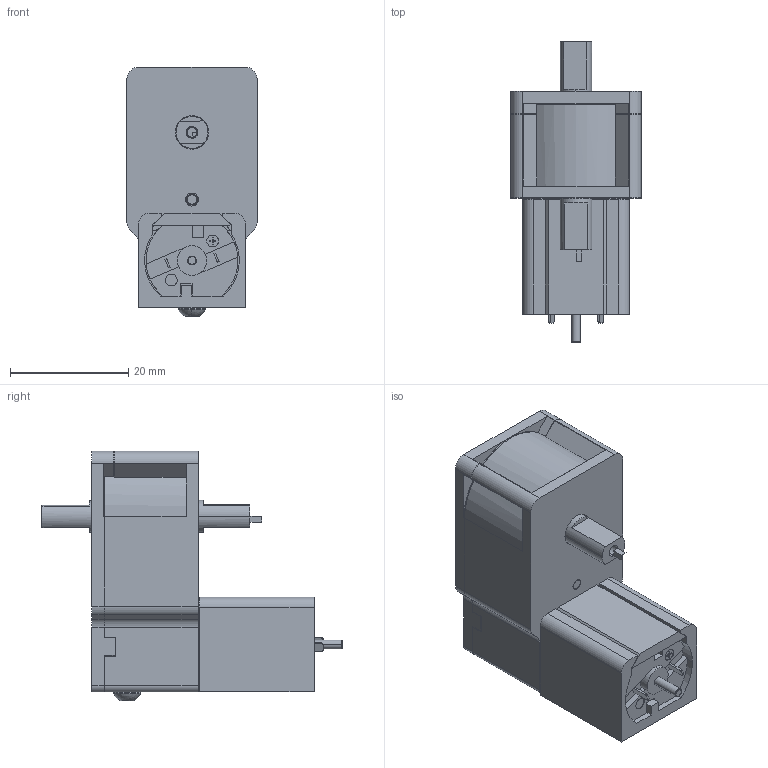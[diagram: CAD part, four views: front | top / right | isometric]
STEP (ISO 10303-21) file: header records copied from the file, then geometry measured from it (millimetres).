
FILE_DESCRIPTION((''),'2;1');
FILE_NAME('00-0300001_ASM_23_ASM_STP_ASM','2024-10-08T10:42:39',('qinghui.yi'),(''),'CREO PARAMETRIC BY PTC INC, 2019164','CREO PARAMETRIC BY PTC INC, 2019164','');
FILE_SCHEMA(('CONFIG_CONTROL_DESIGN','SHAPE_APPEARANCE_LAYERS_GROUPS'));
Products named in the file (19): 00-0001_ASM_15_ASM; 00-0001_ASM_ASM; 01-03000_25_STP; 01-030B0001_8_STP; Y_JG_WJ_B00043_M2_0001_1_STP; 01-0023_2_STP; 01-030A0001_13_STP; 01-A000_5_STP; 01-2-18MM0_4_STP; 01-B000_12_STP; 000; PRT0003; PRT0005; PRT0006; PRT0004; PRT0008; PRT0012; 00-0300001_ASM_23_ASM_STP_ASM
Assembly tree (20 placements, depth 3):
  00-0300001_ASM_23_ASM_STP_ASM
    00-0001_ASM_ASM
      00-0001_ASM_15_ASM
    01-03000_25_STP
    01-030B0001_8_STP
    Y_JG_WJ_B00043_M2_0001_1_STP  x3
    01-0023_2_STP
    01-030A0001_13_STP
    01-A000_5_STP
    01-2-18MM0_4_STP
    01-B000_12_STP
    000
    000
    PRT0003
    PRT0005
    PRT0006
    PRT0004
    PRT0008
    PRT0012
Bounding box: 22 x 50.68 x 42.15 mm (x, y, z)
Volume: 10211.6 mm3; surface area: 18090.2 mm2
Topology: 16 solids, 20 shells, 3453 faces, 10216 edges, 6826 vertices
Faces by surface type: cylinder 2852, plane 509, cone 48, torus 32, bspline 6, sphere 6
Entity records: 139421 total; most frequent: CARTESIAN_POINT 24371, DIRECTION 21050, ORIENTED_EDGE 19472, EDGE_CURVE 9742, AXIS2_PLACEMENT_3D 8615, PRESENTATION_STYLE_ASSIGNMENT 7142, STYLED_ITEM 7142, CURVE_STYLE 6976
